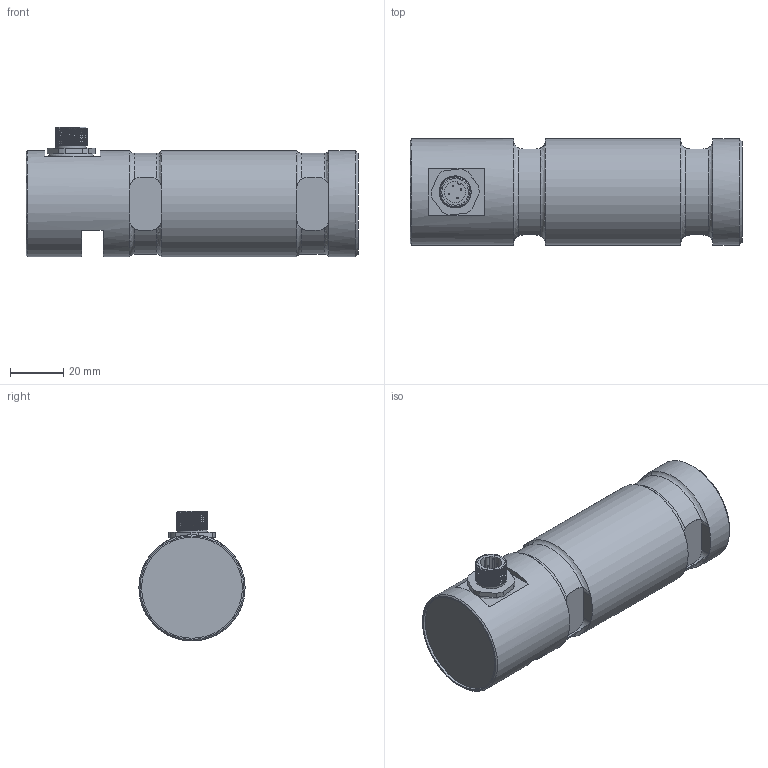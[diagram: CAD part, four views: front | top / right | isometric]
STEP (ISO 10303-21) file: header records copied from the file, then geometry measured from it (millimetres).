
FILE_DESCRIPTION(/* description */ ('Alibre Inc.'),/* implementation_level */ '2;1');
FILE_NAME(/* name */ 'export0',/* time_stamp */ '2015-03-18T09:54:42+01:00',/* author */ (''),/* organization */ (''),/* preprocessor_version */ 'ST-DEVELOPER v14',/* originating_system */ 'Alibre',/* authorisation */ '');
FILE_SCHEMA (('CONFIG_CONTROL_DESIGN'));
Length unit declared in the file: centimetre
Products named in the file (6): ID_1; ID_2; ID_3; ID_4
Bounding box: 125 x 40 x 48.86 mm (x, y, z)
Volume: 144173.9 mm3; surface area: 24291.3 mm2
Topology: 8 solids, 8 shells, 172 faces, 391 edges, 241 vertices
Faces by surface type: plane 73, cylinder 61, bspline 23, torus 9, cone 6
Full cylindrical faces by diameter (mm): 0.5 x8, 8 x2, 10 x3, 11.5 x1, 13 x1, 14.376 x1, 16 x1, 38 x1, 40 x3
Entity records: 16429 total; most frequent: CARTESIAN_POINT 12747, ORIENTED_EDGE 700, DIRECTION 460, EDGE_CURVE 345, VERTEX_POINT 226, FACE_BOUND 216, EDGE_LOOP 215, AXIS2_PLACEMENT_3D 205
